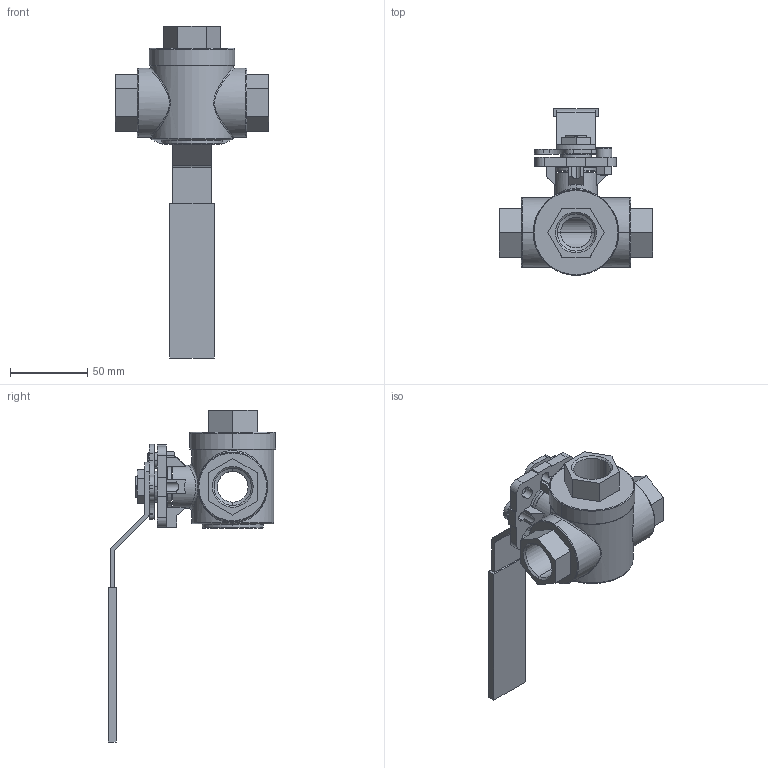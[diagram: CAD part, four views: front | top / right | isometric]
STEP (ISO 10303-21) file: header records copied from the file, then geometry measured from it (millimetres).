
FILE_DESCRIPTION (( 'STEP AP214' ), '1' );
FILE_NAME ('S57D DN20 G3_4 HB FB.STEP', '2019-03-15T11:11:34', ( 'Gebruiker' ), ( 'Hewlett-Packard Company' ), 'SwSTEP 2.0', 'SolidWorks 2018', '' );
FILE_SCHEMA (( 'AUTOMOTIVE_DESIGN' ));
Length unit declared in the file: millimetre
Products named in the file (5): hex nut style 1 gradeab_din_Hexagon Nut ISO 4032 - M6 - D - N; socket head cap screw_din_DIN 912 M6 x 12 --- 12N; S57D Hendel DN20 FB; S57D DN20-G3_4 FB; S57D DN20 G3_4 HB FB
Assembly tree (4 placements, depth 2):
  S57D DN20 G3_4 HB FB
    S57D DN20-G3_4 FB
    S57D Hendel DN20 FB
    socket head cap screw_din_DIN 912 M6 x 12 --- 12N
    hex nut style 1 gradeab_din_Hexagon Nut ISO 4032 - M6 - D - N
Bounding box: 99.7 x 108.43 x 215.48 mm (x, y, z)
Volume: 210983.3 mm3; surface area: 57250.2 mm2
Topology: 4 solids, 4 shells, 343 faces, 885 edges, 553 vertices
Faces by surface type: plane 196, cylinder 87, cone 32, torus 18, bspline 10
Entity records: 12803 total; most frequent: CARTESIAN_POINT 4036, DIRECTION 1788, ORIENTED_EDGE 1766, EDGE_CURVE 883, AXIS2_PLACEMENT_3D 632, VERTEX_POINT 553, LINE 524, VECTOR 524
